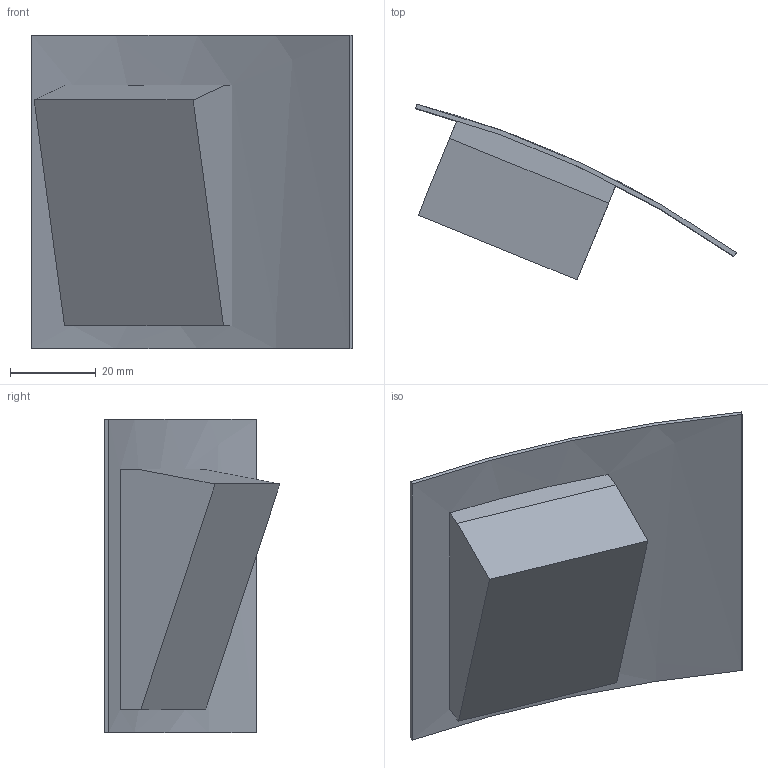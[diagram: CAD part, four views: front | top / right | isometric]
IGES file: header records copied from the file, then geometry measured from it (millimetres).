
Start section: 3D InterOp IGES (Version 21 0 3), Spatial Corp. Copyright (c) 1999-2007.
Global section: file name: CSR Coin Return - Rear Left 20140329.igs; native system: Spatial Corp.; preprocessor: 3D InterOp GENERIC/IGES 3.0; author: Noname; organization: Noname; date: 20140501.124732; units: inch
Bounding box: 74.73 x 40.94 x 73.03 mm (x, y, z)
Surface area: 17899.1 mm2 (no closed solid volume)
Topology: 0 solids, 0 shells, 20 faces, 96 edges, 96 vertices
Faces by surface type: extrusion 18, revolution 2
